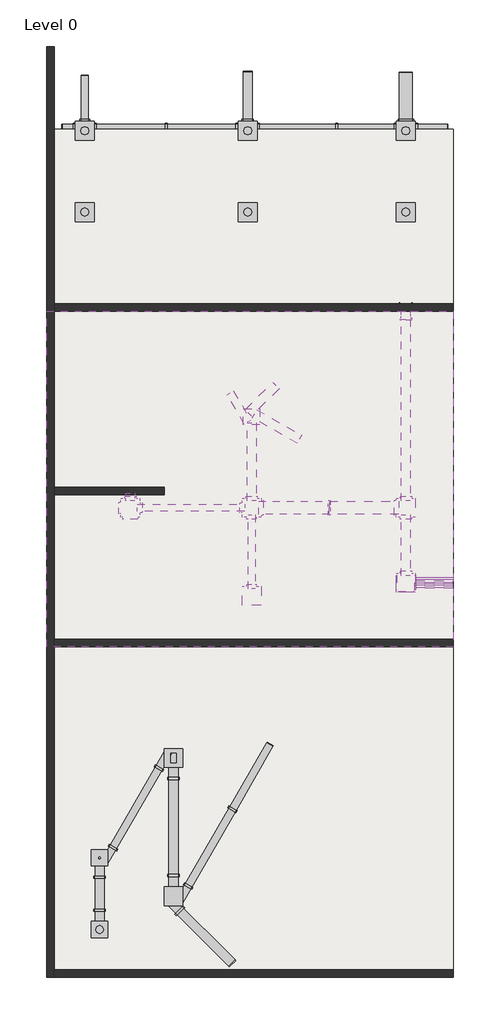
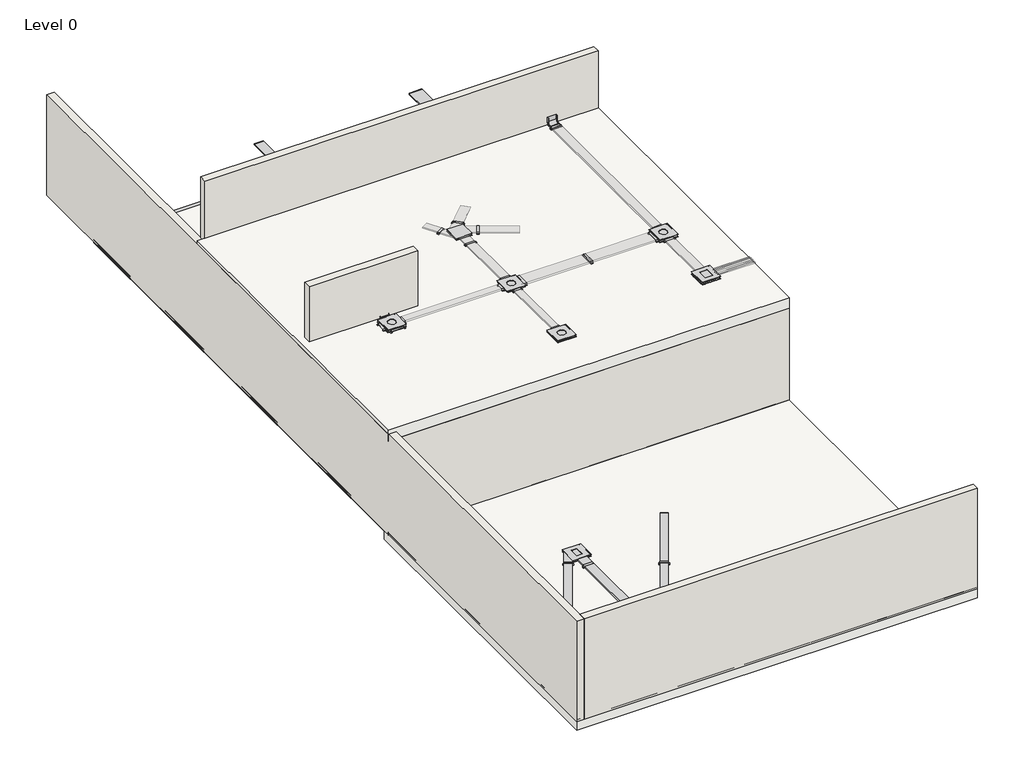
# One storey: 43 cable carrier segments, 40 cable carrier fittings, 5 slabs, 5 walls.
"""IFC4 building model written with IfcOpenShell, lengths in millimetres."""

from ifc_helpers import new_model, si_unit, point, frame, frame_2d, origin, origin_with_axes, place, context, project, spatial, polyline, circle_curve, trimmed, segment, composite_curve, outline, extrude, faceted_brep, transform, mapped, element, save
from components import cable_carrier_fitting_1449447f, cable_carrier_fitting_7ac4a7a7, cable_carrier_fitting_87aa20dd, cable_carrier_fitting_cbbdd0ad, cable_carrier_fitting_c73509c4, cable_carrier_fitting_62b491a6, cable_carrier_fitting_b13fa1fb, cable_carrier_fitting_6f266b18, cable_carrier_fitting_4ca78d10, cable_carrier_fitting_9fe9072b, cable_carrier_fitting_0547c750, cable_carrier_fitting_3ffd2079, cable_carrier_fitting_ff291c77, bracket_ukb_5e2ba21c, clamp_uks_f8b6c40f, clamp_uks_47fe2a39, clamp_uks_b9cb9329, clamp_uks_7d713c9f, end_bracket_uke_2c302845, end_bracket_uke_6d4a283f, end_bracket_uke_1009efe0, end_bracket_uke_49c26a37, end_bracket_uke_cbfa7e48, pipe_inlet_uds_f426f647, universal_junction_box_with_bottom_plate_size_2_cc3fe6d4, universal_junction_box_with_bottom_plate_size_2_f06dd73f, universal_junction_box_with_bottom_plate_size_3_b58b3dae, universal_junction_box_with_bottom_plate_size_3_48d80f4d, universal_junction_box_with_sheet_metal_casing_size_3_742ed20b, universal_junction_box_with_sheet_metal_casing_size_3_df0c8797

model = new_model("IFC4")

# Units and contexts
model_context = context("Model", 3, world=origin())
ifc_project = project(units=[si_unit("LENGTHUNIT", "METRE", prefix="MILLI")], contexts=[model_context])

# Site, building, storey
site = spatial("IfcSite", under=ifc_project)
building = spatial("IfcBuilding", under=site)
storey = spatial("IfcBuildingStorey", under=building, Name="Level 0", Elevation=0.0)

# Cable carrier fittings
placement = place(None, origin())
cable_carrier_fitting_shape = cable_carrier_fitting_1449447f(model_context)
element("IfcCableCarrierFitting", 1, ObjectType="Electrical-Installations_Hager_Vertical-Elbow-UKK : Vertical-Elbow-2-Compartments-UKK", at=placement, inside=storey, context=model_context, shape_type="MappedRepresentation", body=[
    mapped(cable_carrier_fitting_shape, transform((-6825.5844844, -4345.1669928, 2969.2), x_axis=(0.0, -1.0, 0.0), y_axis=(1.0000000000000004, 0.0, 0.0), z_axis=(0.0, 0.0, 1.0000000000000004))),
])
cable_carrier_fitting_2_shape = cable_carrier_fitting_7ac4a7a7(model_context)
element("IfcCableCarrierFitting", 2, ObjectType="Electrical-Installations_Hager_Vertical-Elbow-UKK : Vertical-Elbow-3-Compartments-UKK", at=placement, inside=storey, context=model_context, shape_type="MappedRepresentation", body=[
    mapped(cable_carrier_fitting_2_shape, transform((425.9001732, 439.801545, 2969.2), x_axis=(0.0, -1.0, 0.0), y_axis=(1.0, 0.0, 0.0), z_axis=(0.0, 0.0, 1.0))),
])
cable_carrier_fitting_3_shape = cable_carrier_fitting_87aa20dd(model_context)
element("IfcCableCarrierFitting", 3, ObjectType="Electrical-Installations_Hager_Vertical-Elbow-UKK : Vertical-Elbow-3-Compartments-UKK", at=placement, inside=storey, context=model_context, shape_type="MappedRepresentation", body=[
    mapped(cable_carrier_fitting_3_shape, transform((425.9001732, 1039.801545, 24.0), x_axis=(0.0, 1.0, 0.0), y_axis=(-1.0, 0.0, 0.0), z_axis=(0.0, 0.0, 1.0))),
])
cable_carrier_fitting_4_shape = cable_carrier_fitting_cbbdd0ad(model_context)
element("IfcCableCarrierFitting", 4, ObjectType="Electrical-Installations_Hager_Universal-Junction-Box-With-Retaining-Tabs-Size-2-Angled : Universal junction box with retaining tabs size 2", at=placement, inside=storey, context=model_context, shape_type="MappedRepresentation", body=[
    mapped(cable_carrier_fitting_4_shape, transform((-7633.6577636, -15627.7354934, 85.0), x_axis=(1.0, 0.0, 0.0), y_axis=(0.0, 1.0, 0.0), z_axis=(0.0, 0.0, 1.0))),
])
cable_carrier_fitting_5_shape = cable_carrier_fitting_c73509c4(model_context)
element("IfcCableCarrierFitting", 5, ObjectType="Electrical-Installations_Hager_Universal-Junction-Box-With-Retaining-Tabs-Size-3-Angled : Universal junction box with retaining tabs size 3", at=placement, inside=storey, context=model_context, shape_type="MappedRepresentation", body=[
    mapped(cable_carrier_fitting_5_shape, transform((-5689.5217227, -14751.4029445, 85.0), x_axis=(1.0, 0.0, 0.0), y_axis=(0.0, 1.0, 0.0), z_axis=(0.0, 0.0, 1.0))),
])
cable_carrier_fitting_6_shape = cable_carrier_fitting_62b491a6(model_context)
element("IfcCableCarrierFitting", 6, ObjectType="Electrical-Installations_Hager_Universal-Junction-Box-With-Retaining-Tabs-Size-2 : Universal junction box with retaining tabs size 2", at=placement, inside=storey, context=model_context, shape_type="MappedRepresentation", body=[
    mapped(cable_carrier_fitting_6_shape, transform((-6825.5844844, -4528.1669928, 2969.2), x_axis=(1.0, 0.0, 0.0), y_axis=(0.0, 1.0, 0.0), z_axis=(0.0, 0.0, 1.0))),
])
cable_carrier_fitting_7_shape = cable_carrier_fitting_b13fa1fb(model_context)
element("IfcCableCarrierFitting", 7, ObjectType="Electrical-Installations_Hager_Universal-Junction-Box-With-Retaining-Tabs-Size-3 : Universal junction box with retaining tabs size 3", at=placement, inside=storey, context=model_context, shape_type="MappedRepresentation", body=[
    mapped(cable_carrier_fitting_7_shape, transform((-3632.8221609, -4528.1669928, 2969.2), x_axis=(1.0, 0.0, 0.0), y_axis=(0.0, 1.0, 0.0), z_axis=(0.0, 0.0, 1.0))),
])
cable_carrier_fitting_8_shape = cable_carrier_fitting_6f266b18(model_context)
element("IfcCableCarrierFitting", 8, ObjectType="Electrical-Installations_Hager_Universal-Junction-Box-With-Retaining-Tabs-Size-3 : Universal junction box with retaining tabs size 3", at=placement, inside=storey, context=model_context, shape_type="MappedRepresentation", body=[
    mapped(cable_carrier_fitting_8_shape, transform((-8025.38033, 5391.6758526, 24.0), x_axis=(0.0, 1.0, 0.0), y_axis=(-1.0, 0.0, 0.0), z_axis=(0.0, 0.0, 1.0))),
])
cable_carrier_fitting_9_shape = cable_carrier_fitting_4ca78d10(model_context)
element("IfcCableCarrierFitting", 9, ObjectType="Electrical-Installations_Hager_Universal-Junction-Box-With-Retaining-Tabs-Size-3 : Universal junction box with retaining tabs size 3", at=placement, inside=storey, context=model_context, shape_type="MappedRepresentation", body=[
    mapped(cable_carrier_fitting_9_shape, transform((-8025.38033, 3255.0755111, 24.0), x_axis=(1.0, 0.0, 0.0), y_axis=(0.0, 1.0, 0.0), z_axis=(0.0, 0.0, 1.0))),
])
cable_carrier_fitting_10_shape = cable_carrier_fitting_9fe9072b(model_context)
element("IfcCableCarrierFitting", 10, ObjectType="Electrical-Installations_Hager_Universal-Junction-Box-With-Retaining-Tabs-Size-3 : Universal junction box with retaining tabs size 3", at=placement, inside=storey, context=model_context, shape_type="MappedRepresentation", body=[
    mapped(cable_carrier_fitting_10_shape, transform((-3736.4937866, 5391.6758526, 24.0), x_axis=(0.0, 1.0, 0.0), y_axis=(-1.0, 0.0, 0.0), z_axis=(0.0, 0.0, 1.0))),
])
cable_carrier_fitting_11_shape = cable_carrier_fitting_0547c750(model_context)
element("IfcCableCarrierFitting", 11, ObjectType="Electrical-Installations_Hager_Universal-Junction-Box-With-Retaining-Tabs-Size-3 : Universal junction box with retaining tabs size 3", at=placement, inside=storey, context=model_context, shape_type="MappedRepresentation", body=[
    mapped(cable_carrier_fitting_11_shape, transform((-3736.4937866, 3255.0755111, 24.0), x_axis=(0.0, 1.0, 0.0), y_axis=(-1.0, 0.0, 0.0), z_axis=(0.0, 0.0, 1.0))),
])
cable_carrier_fitting_12_shape = cable_carrier_fitting_3ffd2079(model_context)
element("IfcCableCarrierFitting", 12, ObjectType="Electrical-Installations_Hager_Universal-Junction-Box-With-Retaining-Tabs-Size-3 : Universal junction box with retaining tabs size 3", at=placement, inside=storey, context=model_context, shape_type="MappedRepresentation", body=[
    mapped(cable_carrier_fitting_12_shape, transform((425.9001732, 5391.6758526, 24.0), x_axis=(0.0, 1.0, 0.0), y_axis=(-1.0, 0.0, 0.0), z_axis=(0.0, 0.0, 1.0))),
])
cable_carrier_fitting_13_shape = cable_carrier_fitting_ff291c77(model_context)
element("IfcCableCarrierFitting", 13, ObjectType="Electrical-Installations_Hager_Universal-Junction-Box-With-Retaining-Tabs-Size-3 : Universal junction box with retaining tabs size 3", at=placement, inside=storey, context=model_context, shape_type="MappedRepresentation", body=[
    mapped(cable_carrier_fitting_13_shape, transform((425.9001732, 3255.0755111, 24.0), x_axis=(0.0, 1.0, 0.0), y_axis=(-1.0, 0.0, 0.0), z_axis=(0.0, 0.0, 1.0))),
])
bracket_ukb_shape = bracket_ukb_5e2ba21c(model_context)
element("IfcCableCarrierFitting", 14, ObjectType="Electrical-Installations_Hager_Bracket-UKB : Bracket-UKB", at=placement, inside=storey, context=model_context, shape_type="MappedRepresentation", body=[
    mapped(bracket_ukb_shape, transform((-8025.38033, 2317.662986, 10.0), x_axis=(1.0, 0.0, 0.0), y_axis=(0.0, 1.0, 0.0), z_axis=(0.0, 0.0, 1.0))),
])
clamp_uks_shape = clamp_uks_f8b6c40f(model_context)
element("IfcCableCarrierFitting", 15, ObjectType="Electrical-Installations_Hager_Clamp-UKS : Clamp-UKS", at=placement, inside=storey, context=model_context, shape_type="MappedRepresentation", body=[
    mapped(clamp_uks_shape, transform((-5851.4370583, 5391.6758526, 24.0), x_axis=(-1.0, 0.0, 0.0), y_axis=(0.0, -1.0, 0.0), z_axis=(0.0, 0.0, 1.0))),
])
element("IfcCableCarrierFitting", 16, ObjectType="Electrical-Installations_Hager_Clamp-UKS : Clamp-UKS", at=placement, inside=storey, context=model_context, shape_type="MappedRepresentation", body=[
    mapped(clamp_uks_shape, transform((-1361.520416, 5391.6758526, 24.0), x_axis=(-1.0, 0.0, 0.0), y_axis=(0.0, -1.0, 0.0), z_axis=(0.0, 0.0, 1.0))),
])
clamp_uks_2_shape = clamp_uks_47fe2a39(model_context)
element("IfcCableCarrierFitting", 17, ObjectType="Electrical-Installations_Hager_Clamp-UKS : Clamp-UKS", at=placement, inside=storey, context=model_context, shape_type="MappedRepresentation", body=[
    mapped(clamp_uks_2_shape, transform((-1361.520416, 3255.0755111, 24.0), x_axis=(-1.0, 0.0, 0.0), y_axis=(0.0, -1.0, 0.0), z_axis=(0.0, 0.0, 1.0))),
])
element("IfcCableCarrierFitting", 18, ObjectType="Electrical-Installations_Hager_Clamp-UKS : Clamp-UKS", at=placement, inside=storey, context=model_context, shape_type="MappedRepresentation", body=[
    mapped(clamp_uks_2_shape, transform((-5910.4370583, 3255.0755111, 24.0), x_axis=(-1.0, 0.0, 0.0), y_axis=(0.0, -1.0, 0.0), z_axis=(0.0, 0.0, 1.0))),
])
clamp_uks_3_shape = clamp_uks_b9cb9329(model_context)
element("IfcCableCarrierFitting", 19, ObjectType="Electrical-Installations_Hager_Clamp-UKS : Clamp-UKS", at=placement, inside=storey, context=model_context, shape_type="MappedRepresentation", body=[
    mapped(clamp_uks_3_shape, transform((-1562.1586471, -4528.1474829, 2969.2), x_axis=(-0.9999997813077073, -0.0006613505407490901, 0.0), y_axis=(0.0006613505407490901, -0.9999997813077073, 0.0), z_axis=(0.0, 0.0, 1.0))),
])
clamp_uks_4_shape = clamp_uks_7d713c9f(model_context)
element("IfcCableCarrierFitting", 20, ObjectType="Electrical-Installations_Hager_Clamp-UKS : Clamp-UKS", at=placement, inside=storey, context=model_context, shape_type="MappedRepresentation", body=[
    mapped(clamp_uks_4_shape, transform((-4123.5022728, -12438.8538416, 85.0), x_axis=(-0.5000000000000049, -0.8660254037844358, 0.0), y_axis=(0.8660254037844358, -0.5000000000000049, 0.0), z_axis=(0.0, 0.0, 1.0))),
])
end_bracket_uke_shape = end_bracket_uke_2c302845(model_context)
element("IfcCableCarrierFitting", 21, ObjectType="Electrical-Installations_Hager_End-Bracket-UKE : End-Bracket-UKE", at=placement, inside=storey, context=model_context, shape_type="MappedRepresentation", body=[
    mapped(end_bracket_uke_shape, transform((-8608.0895141, 5391.6758526, 24.0), x_axis=(-1.0, 0.0, 0.0), y_axis=(0.0, -1.0, 0.0), z_axis=(0.0, 0.0, 1.0))),
])
element("IfcCableCarrierFitting", 22, ObjectType="Electrical-Installations_Hager_End-Bracket-UKE : End-Bracket-UKE", at=placement, inside=storey, context=model_context, shape_type="MappedRepresentation", body=[
    mapped(end_bracket_uke_shape, transform((1512.5062134, 5391.6758526, 24.0), x_axis=(1.0, 0.0, 0.0), y_axis=(0.0, 1.0, 0.0), z_axis=(0.0, 0.0, 1.0))),
])
element("IfcCableCarrierFitting", 23, ObjectType="Electrical-Installations_Hager_End-Bracket-UKE : End-Bracket-UKE", at=placement, inside=storey, context=model_context, shape_type="MappedRepresentation", body=[
    mapped(end_bracket_uke_shape, transform((425.9001732, 6917.8189536, 24.0), x_axis=(0.0, 1.0, 0.0), y_axis=(-1.0, 0.0, 0.0), z_axis=(0.0, 0.0, 1.0))),
])
end_bracket_uke_2_shape = end_bracket_uke_6d4a283f(model_context)
element("IfcCableCarrierFitting", 24, ObjectType="Electrical-Installations_Hager_End-Bracket-UKE : End-Bracket-UKE", at=placement, inside=storey, context=model_context, shape_type="MappedRepresentation", body=[
    mapped(end_bracket_uke_2_shape, transform((-8608.0895141, 3255.0755111, 24.0), x_axis=(-1.0, 0.0, 0.0), y_axis=(0.0, -1.0, 0.0), z_axis=(0.0, 0.0, 1.0))),
])
element("IfcCableCarrierFitting", 25, ObjectType="Electrical-Installations_Hager_End-Bracket-UKE : End-Bracket-UKE", at=placement, inside=storey, context=model_context, shape_type="MappedRepresentation", body=[
    mapped(end_bracket_uke_2_shape, transform((-3736.4937866, 1606.0755111, 24.0), x_axis=(0.0, -1.0, 0.0), y_axis=(1.0, 0.0, 0.0), z_axis=(0.0, 0.0, 1.0))),
])
element("IfcCableCarrierFitting", 26, ObjectType="Electrical-Installations_Hager_End-Bracket-UKE : End-Bracket-UKE", at=placement, inside=storey, context=model_context, shape_type="MappedRepresentation", body=[
    mapped(end_bracket_uke_2_shape, transform((1512.5062134, 3255.0755111, 24.0), x_axis=(1.0, 0.0, 0.0), y_axis=(0.0, 1.0, 0.0), z_axis=(0.0, 0.0, 1.0))),
])
element("IfcCableCarrierFitting", 27, ObjectType="Electrical-Installations_Hager_End-Bracket-UKE : End-Bracket-UKE", at=placement, inside=storey, context=model_context, shape_type="MappedRepresentation", body=[
    mapped(end_bracket_uke_2_shape, transform((-3736.4937866, 6940.6758526, 24.0), x_axis=(0.0, 1.0, 0.0), y_axis=(-1.0, 0.0, 0.0), z_axis=(0.0, 0.0, 1.0))),
])
end_bracket_uke_3_shape = end_bracket_uke_1009efe0(model_context)
element("IfcCableCarrierFitting", 28, ObjectType="Electrical-Installations_Hager_End-Bracket-UKE : End-Bracket-UKE", at=placement, inside=storey, context=model_context, shape_type="MappedRepresentation", body=[
    mapped(end_bracket_uke_3_shape, transform((-8025.38033, 1726.0755111, 24.0), x_axis=(0.0, -1.0, 0.0), y_axis=(1.0, 0.0, 0.0), z_axis=(0.0, 0.0, 1.0))),
])
element("IfcCableCarrierFitting", 29, ObjectType="Electrical-Installations_Hager_End-Bracket-UKE : End-Bracket-UKE", at=placement, inside=storey, context=model_context, shape_type="MappedRepresentation", body=[
    mapped(end_bracket_uke_3_shape, transform((-8025.38033, 6840.6758526, 24.0), x_axis=(0.0, 1.0, 0.0), y_axis=(-1.0, 0.0, 0.0), z_axis=(0.0, 0.0, 1.0))),
])
end_bracket_uke_4_shape = end_bracket_uke_49c26a37(model_context)
element("IfcCableCarrierFitting", 30, ObjectType="Electrical-Installations_Hager_End-Bracket-UKE : End-Bracket-UKE", at=placement, inside=storey, context=model_context, shape_type="MappedRepresentation", body=[
    mapped(end_bracket_uke_4_shape, transform((-4148.0289397, -16514.1799987, 85.0), x_axis=(0.7071067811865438, -0.7071067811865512, 0.0), y_axis=(0.7071067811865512, 0.7071067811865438, 0.0), z_axis=(0.0, 0.0, 1.0))),
])
end_bracket_uke_5_shape = end_bracket_uke_cbfa7e48(model_context)
element("IfcCableCarrierFitting", 31, ObjectType="Electrical-Installations_Hager_End-Bracket-UKE : End-Bracket-UKE", at=placement, inside=storey, context=model_context, shape_type="MappedRepresentation", body=[
    mapped(end_bracket_uke_5_shape, transform((-3153.0022728, -10757.8985328, 85.0), x_axis=(0.5000000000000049, 0.8660254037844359, 0.0), y_axis=(-0.8660254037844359, 0.5000000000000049, 0.0), z_axis=(0.0, 0.0, 1.0))),
])
pipe_inlet_uds_shape = pipe_inlet_uds_f426f647(model_context)
element("IfcCableCarrierFitting", 32, ObjectType="Electrical-Installations_Hager_Pipe-Inlet-UDS : Pipe-Inlet-UDS", at=placement, inside=storey, context=model_context, shape_type="MappedRepresentation", body=[
    mapped(pipe_inlet_uds_shape, transform((658.9001732, -6496.8915456, 2957.247197), x_axis=(0.0, 1.0000000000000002, 0.0), y_axis=(-1.0000000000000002, 0.0, 0.0), z_axis=(0.0, 0.0, 1.0))),
])
element("IfcCableCarrierFitting", 33, ObjectType="Electrical-Installations_Hager_Pipe-Inlet-UDS : Pipe-Inlet-UDS", at=placement, inside=storey, context=model_context, shape_type="MappedRepresentation", body=[
    mapped(pipe_inlet_uds_shape, transform((425.9001732, -6729.8915456, 2957.247197), x_axis=(1.0, 0.0, 0.0), y_axis=(0.0, 1.0, 0.0), z_axis=(0.0, 0.0, 1.0))),
])
element("IfcCableCarrierFitting", 34, ObjectType="Electrical-Installations_Hager_Pipe-Inlet-UDS : Pipe-Inlet-UDS", at=placement, inside=storey, context=model_context, shape_type="MappedRepresentation", body=[
    mapped(pipe_inlet_uds_shape, transform((192.9001732, -6496.8915456, 2957.2), x_axis=(0.0, -1.0000000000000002, 0.0), y_axis=(1.0000000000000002, 0.0, 0.0), z_axis=(0.0, 0.0, 1.0))),
])
universal_junction_box_with_bottom_plate_size_2_shape = universal_junction_box_with_bottom_plate_size_2_cc3fe6d4(model_context)
element("IfcCableCarrierFitting", 35, ObjectType="Electrical-Installations_Hager_Universal-Junction-Box-With-Bottom-Plate-Size-2-Angled : Universal junction box with bottom plate size 2", at=placement, inside=storey, context=model_context, shape_type="MappedRepresentation", body=[
    mapped(universal_junction_box_with_bottom_plate_size_2_shape, transform((-3632.8221609, -2131.2102574, 2969.2), x_axis=(1.0, 0.0, 0.0), y_axis=(0.0, 1.0, 0.0), z_axis=(0.0, 0.0, 1.0))),
])
universal_junction_box_with_bottom_plate_size_2_2_shape = universal_junction_box_with_bottom_plate_size_2_f06dd73f(model_context)
element("IfcCableCarrierFitting", 36, ObjectType="Electrical-Installations_Hager_Universal-Junction-Box-With-Bottom-Plate-Size-2-Angled : Universal junction box with bottom plate size 2", at=placement, inside=storey, context=model_context, shape_type="MappedRepresentation", body=[
    mapped(universal_junction_box_with_bottom_plate_size_2_2_shape, transform((-7633.6577636, -13740.715542, 85.0), x_axis=(1.0, 0.0, 0.0), y_axis=(0.0, 1.0, 0.0), z_axis=(0.0, 0.0, 1.0))),
])
universal_junction_box_with_bottom_plate_size_3_shape = universal_junction_box_with_bottom_plate_size_3_b58b3dae(model_context)
element("IfcCableCarrierFitting", 37, ObjectType="Electrical-Installations_Hager_Universal-Junction-Box-With-Bottom-Plate-Size-3 : Universal junction box with bottom plate size 3", at=placement, inside=storey, context=model_context, shape_type="MappedRepresentation", body=[
    mapped(universal_junction_box_with_bottom_plate_size_3_shape, transform((-3632.8221609, -6848.0680021, 2969.2), x_axis=(1.0, 0.0, 0.0), y_axis=(0.0, 1.0, 0.0), z_axis=(0.0, 0.0, 1.0))),
])
universal_junction_box_with_bottom_plate_size_3_2_shape = universal_junction_box_with_bottom_plate_size_3_48d80f4d(model_context)
element("IfcCableCarrierFitting", 38, ObjectType="Electrical-Installations_Hager_Universal-Junction-Box-With-Bottom-Plate-Size-3-Angled : Universal junction box with bottom plate size 3", at=placement, inside=storey, context=model_context, shape_type="MappedRepresentation", body=[
    mapped(universal_junction_box_with_bottom_plate_size_3_2_shape, transform((-5689.5217227, -11112.5036639, 85.0), x_axis=(1.0, 0.0, 0.0), y_axis=(0.0, 1.0, 0.0), z_axis=(0.0, 0.0, 1.0))),
])
universal_junction_box_with_sheet_metal_casing_size_3_shape = universal_junction_box_with_sheet_metal_casing_size_3_742ed20b(model_context)
element("IfcCableCarrierFitting", 39, ObjectType="Electrical-Installations_Hager_Universal-Junction-Box-With-Sheet-Metal-Casing-Size-3 : Universal junction box with sheet metal casing size 3", at=placement, inside=storey, context=model_context, shape_type="MappedRepresentation", body=[
    mapped(universal_junction_box_with_sheet_metal_casing_size_3_shape, transform((425.9001732, -6496.8915456, 2969.2), x_axis=(1.0, 0.0, 0.0), y_axis=(0.0, 1.0, 0.0), z_axis=(0.0, 0.0, 1.0))),
])
universal_junction_box_with_sheet_metal_casing_size_3_2_shape = universal_junction_box_with_sheet_metal_casing_size_3_df0c8797(model_context)
element("IfcCableCarrierFitting", 40, ObjectType="Electrical-Installations_Hager_Universal-Junction-Box-With-Sheet-Metal-Casing-Size-3 : Universal junction box with sheet metal casing size 3", at=placement, inside=storey, context=model_context, shape_type="MappedRepresentation", body=[
    mapped(universal_junction_box_with_sheet_metal_casing_size_3_2_shape, transform((425.9001732, -4528.1669928, 2969.2), x_axis=(1.0, 0.0, 0.0), y_axis=(0.0, 1.0, 0.0), z_axis=(0.0, 0.0, 1.0))),
])

# Cable carrier segments
element("IfcCableCarrierSegment", 41, ObjectType="Electrical-Installations_Cable-Trays_Hager_Screed-Covered-Trunking-System-UK_Trunking-2-Compartments", at=placement, inside=storey, context=model_context, shape_type="SweptSolid", body=[
    extrude(outline(polyline([(608.9001732, 5221.6758526), (608.9001732, 5561.6758526), (1512.5062134, 5561.6758526), (1512.5062134, 5221.6758526), (608.9001732, 5221.6758526)])), frame((0.0, 0.0, 10.0), z_axis=(0.0, 0.0, 1.0), x_axis=(1.0, 0.0, 0.0)), (0.0, 0.0, 1.0), 28.0),
])
element("IfcCableCarrierSegment", 42, ObjectType="Electrical-Installations_Cable-Trays_Hager_Screed-Covered-Trunking-System-UK_Trunking-2-Compartments", at=placement, inside=storey, context=model_context, shape_type="SweptSolid", body=[
    extrude(outline(polyline([(-8608.0895141, 5221.6758526), (-8608.0895141, 5561.6758526), (-8208.38033, 5561.6758526), (-8208.38033, 5221.6758526), (-8608.0895141, 5221.6758526)])), frame((0.0, 0.0, 10.0), z_axis=(0.0, 0.0, 1.0), x_axis=(1.0, 0.0, 0.0)), (0.0, 0.0, 1.0), 28.0),
])
element("IfcCableCarrierSegment", 43, ObjectType="Electrical-Installations_Cable-Trays_Hager_Screed-Covered-Trunking-System-UK_Trunking-2-Compartments", at=placement, inside=storey, context=model_context, shape_type="SweptSolid", body=[
    extrude(outline(polyline([(608.9001732, 3135.0755111), (608.9001732, 3375.0755111), (1512.5062134, 3375.0755111), (1512.5062134, 3135.0755111), (608.9001732, 3135.0755111)])), frame((0.0, 0.0, 10.0), z_axis=(0.0, 0.0, 1.0), x_axis=(1.0, 0.0, 0.0)), (0.0, 0.0, 1.0), 28.0),
])
element("IfcCableCarrierSegment", 44, ObjectType="Electrical-Installations_Cable-Trays_Hager_Screed-Covered-Trunking-System-UK_Trunking-2-Compartments", at=placement, inside=storey, context=model_context, shape_type="SweptSolid", body=[
    extrude(outline(polyline([(-8608.0895141, 3135.0755111), (-8608.0895141, 3375.0755111), (-8208.38033, 3375.0755111), (-8208.38033, 3135.0755111), (-8608.0895141, 3135.0755111)])), frame((0.0, 0.0, 10.0), z_axis=(0.0, 0.0, 1.0), x_axis=(1.0, 0.0, 0.0)), (0.0, 0.0, 1.0), 28.0),
])
element("IfcCableCarrierSegment", 45, ObjectType="Electrical-Installations_Cable-Trays_Hager_Screed-Covered-Trunking-System-UK_Trunking-2-Compartments", at=placement, inside=storey, context=model_context, shape_type="SweptSolid", body=[
    extrude(outline(polyline([(-8120.38033, 5208.6758526), (-7930.38033, 5208.6758526), (-7930.38033, 3438.0755111), (-8120.38033, 3438.0755111), (-8120.38033, 5208.6758526)])), frame((0.0, 0.0, 10.0), z_axis=(0.0, 0.0, 1.0), x_axis=(1.0, 0.0, 0.0)), (0.0, 0.0, 1.0), 28.0),
])
element("IfcCableCarrierSegment", 46, ObjectType="Electrical-Installations_Cable-Trays_Hager_Screed-Covered-Trunking-System-UK_Trunking-2-Compartments", at=placement, inside=storey, context=model_context, shape_type="SweptSolid", body=[
    extrude(outline(polyline([(-3856.4937866, 3072.0755111), (-3616.4937866, 3072.0755111), (-3616.4937866, 1606.0755111), (-3856.4937866, 1606.0755111), (-3856.4937866, 3072.0755111)])), frame((0.0, 0.0, 10.0), z_axis=(0.0, 0.0, 1.0), x_axis=(1.0, 0.0, 0.0)), (0.0, 0.0, 1.0), 28.0),
])
element("IfcCableCarrierSegment", 47, ObjectType="Electrical-Installations_Cable-Trays_Hager_Screed-Covered-Trunking-System-UK_Trunking-2-Compartments", at=placement, inside=storey, context=model_context, shape_type="SweptSolid", body=[
    extrude(outline(polyline([(-3856.4937866, 5208.6758526), (-3616.4937866, 5208.6758526), (-3616.4937866, 3438.0755111), (-3856.4937866, 3438.0755111), (-3856.4937866, 5208.6758526)])), frame((0.0, 0.0, 10.0), z_axis=(0.0, 0.0, 1.0), x_axis=(1.0, 0.0, 0.0)), (0.0, 0.0, 1.0), 28.0),
])
element("IfcCableCarrierSegment", 48, ObjectType="Electrical-Installations_Cable-Trays_Hager_Screed-Covered-Trunking-System-UK_Trunking-2-Compartments", at=placement, inside=storey, context=model_context, shape_type="SweptSolid", body=[
    extrude(outline(polyline([(0.0, -340.0), (0.0, 0.0), (1343.143101, 0.0), (1343.143101, -340.0), (0.0, -340.0)])), frame((595.9001732, 6917.8189536, 10.0), z_axis=(0.0, -2.1898160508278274e-12, 1.0), x_axis=(0.0, -1.0, -2.1898160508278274e-12)), (0.0, 0.0, 1.0), 28.0),
])
element("IfcCableCarrierSegment", 49, ObjectType="Electrical-Installations_Cable-Trays_Hager_Screed-Covered-Trunking-System-UK_Trunking-2-Compartments", at=placement, inside=storey, context=model_context, shape_type="SweptSolid", body=[
    extrude(outline(polyline([(255.9001732, 5208.6758526), (595.9001732, 5208.6758526), (595.9001732, 3438.0755111), (255.9001732, 3438.0755111), (255.9001732, 5208.6758526)])), frame((0.0, 0.0, 10.0), z_axis=(0.0, 0.0, 1.0), x_axis=(1.0, 0.0, 0.0)), (0.0, 0.0, 1.0), 28.0),
])
element("IfcCableCarrierSegment", 50, ObjectType="Electrical-Installations_Cable-Trays_Hager_Screed-Covered-Trunking-System-UK_Trunking-2-Compartments", at=placement, inside=storey, context=model_context, shape_type="SweptSolid", body=[
    extrude(outline(polyline([(-7842.38033, 5221.6758526), (-7842.38033, 5561.6758526), (-5880.9370583, 5561.6758526), (-5880.9370583, 5221.6758526), (-7842.38033, 5221.6758526)])), frame((0.0, 0.0, 10.0), z_axis=(0.0, 0.0, 1.0), x_axis=(1.0, 0.0, 0.0)), (0.0, 0.0, 1.0), 28.0),
])
element("IfcCableCarrierSegment", 51, ObjectType="Electrical-Installations_Cable-Trays_Hager_Screed-Covered-Trunking-System-UK_Trunking-2-Compartments", at=placement, inside=storey, context=model_context, shape_type="SweptSolid", body=[
    extrude(outline(polyline([(-3553.4937866, 5221.6758526), (-3553.4937866, 5561.6758526), (-1391.020416, 5561.6758526), (-1391.020416, 5221.6758526), (-3553.4937866, 5221.6758526)])), frame((0.0, 0.0, 10.0), z_axis=(0.0, 0.0, 1.0), x_axis=(1.0, 0.0, 0.0)), (0.0, 0.0, 1.0), 28.0),
])
element("IfcCableCarrierSegment", 52, ObjectType="Electrical-Installations_Cable-Trays_Hager_Screed-Covered-Trunking-System-UK_Trunking-2-Compartments", at=placement, inside=storey, context=model_context, shape_type="SweptSolid", body=[
    extrude(outline(polyline([(-3553.4937866, 3135.0755111), (-3553.4937866, 3375.0755111), (-1391.020416, 3375.0755111), (-1391.020416, 3135.0755111), (-3553.4937866, 3135.0755111)])), frame((0.0, 0.0, 10.0), z_axis=(0.0, 0.0, 1.0), x_axis=(1.0, 0.0, 0.0)), (0.0, 0.0, 1.0), 28.0),
])
element("IfcCableCarrierSegment", 53, ObjectType="Electrical-Installations_Cable-Trays_Hager_Screed-Covered-Trunking-System-UK_Trunking-2-Compartments", at=placement, inside=storey, context=model_context, shape_type="SweptSolid", body=[
    extrude(outline(polyline([(-7842.38033, 3135.0755111), (-7842.38033, 3375.0755111), (-5939.9370583, 3375.0755111), (-5939.9370583, 3135.0755111), (-7842.38033, 3135.0755111)])), frame((0.0, 0.0, 10.0), z_axis=(0.0, 0.0, 1.0), x_axis=(1.0, 0.0, 0.0)), (0.0, 0.0, 1.0), 28.0),
])
element("IfcCableCarrierSegment", 54, ObjectType="Electrical-Installations_Cable-Trays_Hager_Screed-Covered-Trunking-System-UK_Trunking-2-Compartments", at=placement, inside=storey, context=model_context, shape_type="SweptSolid", body=[
    extrude(outline(polyline([(-8120.38033, 3072.0755111), (-7930.38033, 3072.0755111), (-7930.38033, 1726.0755111), (-8120.38033, 1726.0755111), (-8120.38033, 3072.0755111)])), frame((0.0, 0.0, 10.0), z_axis=(0.0, 0.0, 1.0), x_axis=(1.0, 0.0, 0.0)), (0.0, 0.0, 1.0), 28.0),
])
element("IfcCableCarrierSegment", 55, ObjectType="Electrical-Installations_Cable-Trays_Hager_Screed-Covered-Trunking-System-UK_Trunking-3-Compartments", at=placement, inside=storey, context=model_context, shape_type="SweptSolid", body=[
    extrude(outline(polyline([(255.9001732, 3072.0755111), (595.9001732, 3072.0755111), (595.9001732, 1039.801545), (255.9001732, 1039.801545), (255.9001732, 3072.0755111)])), frame((0.0, 0.0, 10.0), z_axis=(0.0, 0.0, 1.0), x_axis=(1.0, 0.0, 0.0)), (0.0, 0.0, 1.0), 28.0),
])
element("IfcCableCarrierSegment", 56, ObjectType="Electrical-Installations_Cable-Trays_Hager_Screed-Covered-Trunking-System-UK_Trunking-3-Compartments", at=placement, inside=storey, context=model_context, shape_type="SweptSolid", body=[
    extrude(outline(polyline([(-7930.38033, 5574.6758526), (-8120.38033, 5574.6758526), (-8120.38033, 6840.6758526), (-7930.38033, 6840.6758526), (-7930.38033, 5574.6758526)])), frame((0.0, 0.0, 10.0), z_axis=(0.0, 0.0, 1.0), x_axis=(1.0, 0.0, 0.0)), (0.0, 0.0, 1.0), 28.0),
])
element("IfcCableCarrierSegment", 57, ObjectType="Electrical-Installations_Cable-Trays_Hager_Screed-Covered-Trunking-System-UK_Trunking-3-Compartments", at=placement, inside=storey, context=model_context, shape_type="SweptSolid", body=[
    extrude(outline(polyline([(-3815.8221609, -4433.1669928), (-3815.8221609, -4623.1669928), (-6642.5844844, -4623.1669928), (-6642.5844844, -4433.1669928), (-3815.8221609, -4433.1669928)])), frame((0.0, 0.0, 2945.2), z_axis=(0.0, 0.0, 1.0), x_axis=(1.0, 0.0, 0.0)), (0.0, 0.0, 1.0), 48.0),
])
element("IfcCableCarrierSegment", 58, ObjectType="Electrical-Installations_Cable-Trays_Hager_Screed-Covered-Trunking-System-UK_Trunking-3-Compartments", at=placement, inside=storey, context=model_context, shape_type="SweptSolid", body=[
    extrude(outline(polyline([(305.9001732, -4711.1669928), (545.9001732, -4711.1669928), (545.9001732, -6313.8915456), (305.9001732, -6313.8915456), (305.9001732, -4711.1669928)])), frame((0.0, 0.0, 2955.2), z_axis=(0.0, 0.0, 1.0), x_axis=(1.0, 0.0, 0.0)), (0.0, 0.0, 1.0), 28.0),
])
element("IfcCableCarrierSegment", 59, ObjectType="Electrical-Installations_Cable-Trays_Hager_Screed-Covered-Trunking-System-UK_Trunking-3-Compartments", at=placement, inside=storey, context=model_context, shape_type="SweptSolid", body=[
    extrude(outline(polyline([(545.9001732, -4345.1669928), (305.9001732, -4345.1669928), (305.9001732, 439.801545), (545.9001732, 439.801545), (545.9001732, -4345.1669928)])), frame((0.0, 0.0, 2945.2), z_axis=(0.0, 0.0, 1.0), x_axis=(1.0, 0.0, 0.0)), (0.0, 0.0, 1.0), 48.0),
])
element("IfcCableCarrierSegment", 60, ObjectType="Electrical-Installations_Cable-Trays_Hager_Screed-Covered-Trunking-System-UK_Trunking-3-Compartments", at=placement, inside=storey, context=model_context, shape_type="SweptSolid", body=[
    extrude(outline(polyline([(-3727.8221609, -4711.1669928), (-3537.8221609, -4711.1669928), (-3537.8221609, -6663.0680021), (-3727.8221609, -6663.0680021), (-3727.8221609, -4711.1669928)])), frame((0.0, 0.0, 2955.2), z_axis=(0.0, 0.0, 1.0), x_axis=(1.0, 0.0, 0.0)), (0.0, 0.0, 1.0), 28.0),
])
element("IfcCableCarrierSegment", 61, ObjectType="Rigid Nonmetallic Conduit (RNC)", at=placement, inside=storey, context=model_context, shape_type="SweptSolid", body=[
    extrude(outline(composite_curve([segment(trimmed(circle_curve(frame_2d((-6630.0774292, 2984.3)), 10.0), [point((-6640.0774292, 2984.3))], [point((-6630.0774292, 2994.3))], False, "CARTESIAN"), True, "CONTINUOUS"), segment(trimmed(circle_curve(frame_2d((-6630.0774292, 2984.3)), 10.0), [point((-6630.0774292, 2994.3))], [point((-6620.0774292, 2984.3))], False, "CARTESIAN"), True, "CONTINUOUS"), segment(trimmed(circle_curve(frame_2d((-6630.0774292, 2984.3)), 10.0), [point((-6620.0774292, 2984.3))], [point((-6630.0774292, 2974.3))], False, "CARTESIAN"), True, "CONTINUOUS"), segment(trimmed(circle_curve(frame_2d((-6630.0774292, 2984.3)), 10.0), [point((-6630.0774292, 2974.3))], [point((-6640.0774292, 2984.3))], False, "CARTESIAN"), True, "CONTINUOUS")], self_intersect=False)), frame((683.9001732, 0.0, 0.0), z_axis=(1.0, 0.0, 0.0), x_axis=(0.0, 1.0, 0.0)), (0.0, 0.0, 1.0), 980.0),
])
element("IfcCableCarrierSegment", 62, ObjectType="Rigid Nonmetallic Conduit (RNC)", at=placement, inside=storey, context=model_context, shape_type="SweptSolid", body=[
    extrude(outline(composite_curve([segment(trimmed(circle_curve(frame_2d((-6576.3274292, 2984.3)), 16.0), [point((-6592.3274292, 2984.3))], [point((-6576.3274292, 3000.3))], False, "CARTESIAN"), True, "CONTINUOUS"), segment(trimmed(circle_curve(frame_2d((-6576.3274292, 2984.3)), 16.0), [point((-6576.3274292, 3000.3))], [point((-6560.3274292, 2984.3))], False, "CARTESIAN"), True, "CONTINUOUS"), segment(trimmed(circle_curve(frame_2d((-6576.3274292, 2984.3)), 16.0), [point((-6560.3274292, 2984.3))], [point((-6576.3274292, 2968.3))], False, "CARTESIAN"), True, "CONTINUOUS"), segment(trimmed(circle_curve(frame_2d((-6576.3274292, 2984.3)), 16.0), [point((-6576.3274292, 2968.3))], [point((-6592.3274292, 2984.3))], False, "CARTESIAN"), True, "CONTINUOUS")], self_intersect=False)), frame((683.9001732, 0.0, 0.0), z_axis=(1.0, 0.0, 0.0), x_axis=(0.0, 1.0, 0.0)), (0.0, 0.0, 1.0), 980.0),
])
element("IfcCableCarrierSegment", 63, ObjectType="Rigid Nonmetallic Conduit (RNC)", at=placement, inside=storey, context=model_context, shape_type="SweptSolid", body=[
    extrude(outline(composite_curve([segment(trimmed(circle_curve(frame_2d((-6523.8274292, 2984.3)), 20.0), [point((-6543.8274292, 2984.3))], [point((-6523.8274292, 3004.3))], False, "CARTESIAN"), True, "CONTINUOUS"), segment(trimmed(circle_curve(frame_2d((-6523.8274292, 2984.3)), 20.0), [point((-6523.8274292, 3004.3))], [point((-6503.8274292, 2984.3))], False, "CARTESIAN"), True, "CONTINUOUS"), segment(trimmed(circle_curve(frame_2d((-6523.8274292, 2984.3)), 20.0), [point((-6503.8274292, 2984.3))], [point((-6523.8274292, 2964.3))], False, "CARTESIAN"), True, "CONTINUOUS"), segment(trimmed(circle_curve(frame_2d((-6523.8274292, 2984.3)), 20.0), [point((-6523.8274292, 2964.3))], [point((-6543.8274292, 2984.3))], False, "CARTESIAN"), True, "CONTINUOUS")], self_intersect=False)), frame((683.9001732, 0.0, 0.0), z_axis=(1.0, 0.0, 0.0), x_axis=(0.0, 1.0, 0.0)), (0.0, 0.0, 1.0), 980.0),
])
element("IfcCableCarrierSegment", 64, ObjectType="Rigid Nonmetallic Conduit (RNC)", at=placement, inside=storey, context=model_context, shape_type="SweptSolid", body=[
    extrude(outline(composite_curve([segment(trimmed(circle_curve(frame_2d((-6470.0774292, 2984.3)), 25.0), [point((-6495.0774292, 2984.3))], [point((-6470.0774292, 3009.3))], False, "CARTESIAN"), True, "CONTINUOUS"), segment(trimmed(circle_curve(frame_2d((-6470.0774292, 2984.3)), 25.0), [point((-6470.0774292, 3009.3))], [point((-6445.0774292, 2984.3))], False, "CARTESIAN"), True, "CONTINUOUS"), segment(trimmed(circle_curve(frame_2d((-6470.0774292, 2984.3)), 25.0), [point((-6445.0774292, 2984.3))], [point((-6470.0774292, 2959.3))], False, "CARTESIAN"), True, "CONTINUOUS"), segment(trimmed(circle_curve(frame_2d((-6470.0774292, 2984.3)), 25.0), [point((-6470.0774292, 2959.3))], [point((-6495.0774292, 2984.3))], False, "CARTESIAN"), True, "CONTINUOUS")], self_intersect=False)), frame((683.9001732, 0.0, 0.0), z_axis=(1.0, 0.0, 0.0), x_axis=(0.0, 1.0, 0.0)), (0.0, 0.0, 1.0), 980.0),
])
element("IfcCableCarrierSegment", 65, ObjectType="Rigid Nonmetallic Conduit (RNC)", at=placement, inside=storey, context=model_context, shape_type="SweptSolid", body=[
    extrude(outline(composite_curve([segment(trimmed(circle_curve(frame_2d((-6417.5774292, 2984.3)), 10.0), [point((-6427.5774292, 2984.3))], [point((-6417.5774292, 2994.3))], False, "CARTESIAN"), True, "CONTINUOUS"), segment(trimmed(circle_curve(frame_2d((-6417.5774292, 2984.3)), 10.0), [point((-6417.5774292, 2994.3))], [point((-6407.5774292, 2984.3))], False, "CARTESIAN"), True, "CONTINUOUS"), segment(trimmed(circle_curve(frame_2d((-6417.5774292, 2984.3)), 10.0), [point((-6407.5774292, 2984.3))], [point((-6417.5774292, 2974.3))], False, "CARTESIAN"), True, "CONTINUOUS"), segment(trimmed(circle_curve(frame_2d((-6417.5774292, 2984.3)), 10.0), [point((-6417.5774292, 2974.3))], [point((-6427.5774292, 2984.3))], False, "CARTESIAN"), True, "CONTINUOUS")], self_intersect=False)), frame((683.9001732, 0.0, 0.0), z_axis=(1.0, 0.0, 0.0), x_axis=(0.0, 1.0, 0.0)), (0.0, 0.0, 1.0), 980.0),
])
element("IfcCableCarrierSegment", 66, ObjectType="Rigid Nonmetallic Conduit (RNC)", at=placement, inside=storey, context=model_context, shape_type="SweptSolid", body=[
    extrude(outline(composite_curve([segment(trimmed(circle_curve(frame_2d((-6363.8274292, 2984.3)), 10.0), [point((-6373.8274292, 2984.3))], [point((-6363.8274292, 2994.3))], False, "CARTESIAN"), True, "CONTINUOUS"), segment(trimmed(circle_curve(frame_2d((-6363.8274292, 2984.3)), 10.0), [point((-6363.8274292, 2994.3))], [point((-6353.8274292, 2984.3))], False, "CARTESIAN"), True, "CONTINUOUS"), segment(trimmed(circle_curve(frame_2d((-6363.8274292, 2984.3)), 10.0), [point((-6353.8274292, 2984.3))], [point((-6363.8274292, 2974.3))], False, "CARTESIAN"), True, "CONTINUOUS"), segment(trimmed(circle_curve(frame_2d((-6363.8274292, 2984.3)), 10.0), [point((-6363.8274292, 2974.3))], [point((-6373.8274292, 2984.3))], False, "CARTESIAN"), True, "CONTINUOUS")], self_intersect=False)), frame((683.9001732, 0.0, 0.0), z_axis=(1.0, 0.0, 0.0), x_axis=(0.0, 1.0, 0.0)), (0.0, 0.0, 1.0), 980.0),
])
element("IfcCableCarrierSegment", 67, ObjectType="Electrical-Installations_Cable-Trays_Hager_Screed-Covered-Trunking-System-UK_Trunking-3-Compartments", at=placement, inside=storey, context=model_context, shape_type="SweptSolid", body=[
    extrude(outline(polyline([(-3449.8221609, -4698.1669928), (-3449.8221609, -4358.1669928), (-1591.6586407, -4358.1669928), (-1591.6586407, -4698.1669928), (-3449.8221609, -4698.1669928)])), frame((0.0, 0.0, 2945.2), z_axis=(0.0, 0.0, 1.0), x_axis=(1.0, 0.0, 0.0)), (0.0, 0.0, 1.0), 48.0),
])
element("IfcCableCarrierSegment", 68, ObjectType="Electrical-Installations_Cable-Trays_Hager_Screed-Covered-Trunking-System-UK_Trunking-2-Compartments", at=placement, inside=storey, context=model_context, shape_type="SweptSolid", body=[
    extrude(outline(polyline([(-3616.4937866, 5574.6758526), (-3856.4937866, 5574.6758526), (-3856.4937866, 6940.6758526), (-3616.4937866, 6940.6758526), (-3616.4937866, 5574.6758526)])), frame((0.0, 0.0, 10.0), z_axis=(0.0, 0.0, 1.0), x_axis=(1.0, 0.0, 0.0)), (0.0, 0.0, 1.0), 28.0),
])
element("IfcCableCarrierSegment", 69, ObjectType="Electrical-Installations_Cable-Trays_Hager_Screed-Covered-Trunking-System-UK_Trunking-3-Compartments", at=placement, inside=storey, context=model_context, shape_type="SweptSolid", body=[
    extrude(outline(polyline([(-3512.8221609, -4345.1669928), (-3752.8221609, -4345.1669928), (-3752.8221609, -2289.2102574), (-3512.8221609, -2289.2102574), (-3512.8221609, -4345.1669928)])), frame((0.0, 0.0, 2955.2), z_axis=(0.0, 0.0, 1.0), x_axis=(1.0, 0.0, 0.0)), (0.0, 0.0, 1.0), 28.0),
])
element("IfcCableCarrierSegment", 70, ObjectType="Electrical-Installations_Cable-Trays_Hager_Screed-Covered-Trunking-System-UK_Trunking-3-Compartments", at=placement, inside=storey, context=model_context, shape_type="SweptSolid", body=[
    extrude(outline(polyline([(-3660.9183503, -2231.8006014), (-3825.4631771, -2326.8006014), (-4275.4631771, -1547.377738), (-4110.9183503, -1452.377738), (-3660.9183503, -2231.8006014)])), frame((0.0, 0.0, 2955.2), z_axis=(0.0, 0.0, 1.0), x_axis=(1.0, 0.0, 0.0)), (0.0, 0.0, 1.0), 28.0),
])
element("IfcCableCarrierSegment", 71, ObjectType="Electrical-Installations_Cable-Trays_Hager_Screed-Covered-Trunking-System-UK_Trunking-3-Compartments", at=placement, inside=storey, context=model_context, shape_type="SweptSolid", body=[
    extrude(outline(polyline([(-3632.8221609, -2114.6316136), (-3802.5277884, -1944.9259862), (-3081.2788716, -1223.6770693), (-2911.5732441, -1393.3826968), (-3632.8221609, -2114.6316136)])), frame((0.0, 0.0, 2955.2), z_axis=(0.0, 0.0, 1.0), x_axis=(1.0, 0.0, 0.0)), (0.0, 0.0, 1.0), 28.0),
])
element("IfcCableCarrierSegment", 72, ObjectType="Electrical-Installations_Cable-Trays_Hager_Screed-Covered-Trunking-System-UK_Trunking-2-Compartments", at=placement, inside=storey, context=model_context, shape_type="SweptSolid", body=[
    extrude(outline(polyline([(-5569.5217227, -14558.4029445), (-5809.5217227, -14558.4029445), (-5809.5217227, -11305.5036639), (-5569.5217227, -11305.5036639), (-5569.5217227, -14558.4029445)])), frame((0.0, 0.0, 61.0), z_axis=(0.0, 0.0, 1.0), x_axis=(1.0, 0.0, 0.0)), (0.0, 0.0, 1.0), 48.0),
])
element("IfcCableCarrierSegment", 73, ObjectType="Electrical-Installations_Cable-Trays_Hager_Screed-Covered-Trunking-System-UK_Trunking-2-Compartments", at=placement, inside=storey, context=model_context, shape_type="SweptSolid", body=[
    extrude(outline(polyline([(-5859.2273502, -14972.6872157), (-5689.5217227, -14802.9815882), (-4063.1761259, -16429.3271849), (-4232.8817534, -16599.0328124), (-5859.2273502, -14972.6872157)])), frame((0.0, 0.0, 61.0), z_axis=(0.0, 0.0, 1.0), x_axis=(1.0, 0.0, 0.0)), (0.0, 0.0, 1.0), 48.0),
])
element("IfcCableCarrierSegment", 74, ObjectType="Electrical-Installations_Cable-Trays_Hager_Screed-Covered-Trunking-System-UK_Trunking-2-Compartments", at=placement, inside=storey, context=model_context, shape_type="SweptSolid", body=[
    extrude(outline(polyline([(-5917.1627388, -10916.9133198), (-5752.6179121, -11011.9133198), (-7441.0167474, -13936.305886), (-7605.5615741, -13841.305886), (-5917.1627388, -10916.9133198)])), frame((0.0, 0.0, 61.0), z_axis=(0.0, 0.0, 1.0), x_axis=(1.0, 0.0, 0.0)), (0.0, 0.0, 1.0), 48.0),
])
element("IfcCableCarrierSegment", 75, ObjectType="Electrical-Installations_Cable-Trays_Hager_Screed-Covered-Trunking-System-UK_Trunking-2-Compartments", at=placement, inside=storey, context=model_context, shape_type="SweptSolid", body=[
    extrude(outline(polyline([(-5461.8807065, -14946.9932885), (-5626.4255332, -14851.9932885), (-4220.5246862, -12416.901591), (-4055.9798595, -12511.901591), (-5461.8807065, -14946.9932885)])), frame((0.0, 0.0, 61.0), z_axis=(0.0, 0.0, 1.0), x_axis=(1.0, 0.0, 0.0)), (0.0, 0.0, 1.0), 48.0),
])
element("IfcCableCarrierSegment", 76, ObjectType="Electrical-Installations_Cable-Trays_Hager_Screed-Covered-Trunking-System-UK_Trunking-3-Compartments", at=placement, inside=storey, context=model_context, shape_type="SweptSolid", body=[
    extrude(outline(polyline([(-3613.0217876, -2153.0787411), (-3493.0217876, -1945.2326442), (-2315.2272385, -2625.2326442), (-2435.2272385, -2833.0787411), (-3613.0217876, -2153.0787411)])), frame((0.0, 0.0, 2955.2), z_axis=(0.0, 0.0, 1.0), x_axis=(1.0, 0.0, 0.0)), (0.0, 0.0, 1.0), 28.0),
])
element("IfcCableCarrierSegment", 77, ObjectType="Electrical-Installations_Cable-Trays_Hager_Screed-Covered-Trunking-System-UK_Trunking-2-Compartments", at=placement, inside=storey, context=model_context, shape_type="SweptSolid", body=[
    extrude(outline(polyline([(-4055.9798595, -12511.901591), (-4220.5246862, -12416.901591), (-3235.2746862, -10710.3985328), (-3070.7298595, -10805.3985328), (-4055.9798595, -12511.901591)])), frame((0.0, 0.0, 61.0), z_axis=(0.0, 0.0, 1.0), x_axis=(1.0, 0.0, 0.0)), (0.0, 0.0, 1.0), 48.0),
])
element("IfcCableCarrierSegment", 78, ObjectType="Electrical-Installations_Cable-Trays_Hager_Screed-Covered-Trunking-System-UK_Trunking-2-Compartments", at=placement, inside=storey, context=model_context, shape_type="SweptSolid", body=[
    extrude(outline(polyline([(-1391.020416, 3135.0755111), (-1391.020416, 3375.0755111), (242.9001732, 3375.0755111), (242.9001732, 3135.0755111), (-1391.020416, 3135.0755111)])), frame((0.0, 0.0, 10.0), z_axis=(0.0, 0.0, 1.0), x_axis=(1.0, 0.0, 0.0)), (0.0, 0.0, 1.0), 28.0),
])
element("IfcCableCarrierSegment", 79, ObjectType="Electrical-Installations_Cable-Trays_Hager_Screed-Covered-Trunking-System-UK_Trunking-2-Compartments", at=placement, inside=storey, context=model_context, shape_type="SweptSolid", body=[
    extrude(outline(polyline([(-1391.020416, 5221.6758526), (-1391.020416, 5561.6758526), (242.9001732, 5561.6758526), (242.9001732, 5221.6758526), (-1391.020416, 5221.6758526)])), frame((0.0, 0.0, 10.0), z_axis=(0.0, 0.0, 1.0), x_axis=(1.0, 0.0, 0.0)), (0.0, 0.0, 1.0), 28.0),
])
element("IfcCableCarrierSegment", 80, ObjectType="Electrical-Installations_Cable-Trays_Hager_Screed-Covered-Trunking-System-UK_Trunking-2-Compartments", at=placement, inside=storey, context=model_context, shape_type="SweptSolid", body=[
    extrude(outline(polyline([(-5939.9370583, 3135.0755111), (-5939.9370583, 3375.0755111), (-3919.4937866, 3375.0755111), (-3919.4937866, 3135.0755111), (-5939.9370583, 3135.0755111)])), frame((0.0, 0.0, 10.0), z_axis=(0.0, 0.0, 1.0), x_axis=(1.0, 0.0, 0.0)), (0.0, 0.0, 1.0), 28.0),
])
element("IfcCableCarrierSegment", 81, ObjectType="Electrical-Installations_Cable-Trays_Hager_Screed-Covered-Trunking-System-UK_Trunking-2-Compartments", at=placement, inside=storey, context=model_context, shape_type="SweptSolid", body=[
    extrude(outline(polyline([(-5880.9370583, 5221.6758526), (-5880.9370583, 5561.6758526), (-3919.4937866, 5561.6758526), (-3919.4937866, 5221.6758526), (-5880.9370583, 5221.6758526)])), frame((0.0, 0.0, 10.0), z_axis=(0.0, 0.0, 1.0), x_axis=(1.0, 0.0, 0.0)), (0.0, 0.0, 1.0), 28.0),
])
element("IfcCableCarrierSegment", 82, ObjectType="Electrical-Installations_Cable-Trays_Hager_Screed-Covered-Trunking-System-UK_Trunking-3-Compartments", at=placement, inside=storey, context=model_context, shape_type="SweptSolid", body=[
    extrude(outline(polyline([(242.9001732, -4358.1669928), (242.9001732, -4698.1669928), (-1591.6586407, -4698.1669928), (-1591.6586407, -4358.1669928), (242.9001732, -4358.1669928)])), frame((0.0, 0.0, 2945.2), z_axis=(0.0, 0.0, 1.0), x_axis=(1.0, 0.0, 0.0)), (0.0, 0.0, 1.0), 48.0),
])
element("IfcCableCarrierSegment", 83, ObjectType="Channel Cable Tray", at=placement, inside=storey, context=model_context, shape_type="SweptSolid", body=[
    extrude(outline(polyline([(-7513.6577636, -15469.7354934), (-7753.6577636, -15469.7354934), (-7753.6577636, -13898.715542), (-7513.6577636, -13898.715542), (-7513.6577636, -15469.7354934)])), frame((0.0, 0.0, 61.0), z_axis=(0.0, 0.0, 1.0), x_axis=(1.0, 0.0, 0.0)), (0.0, 0.0, 1.0), 48.0),
])

# Slabs
element("IfcSlab", 84, ObjectType="Generic 300mm", at=placement, inside=storey, context=model_context, shape_type="SweptSolid", body=[
    extrude(outline(polyline([(1669.7886535, 639.801545), (1669.7886535, -8188.8550128), (-9030.2113465, -8188.8550128), (-9030.2113465, 639.801545), (1669.7886535, 639.801545)])), frame((0.0, 0.0, 2644.0), z_axis=(0.0, 0.0, 1.0), x_axis=(1.0, 0.0, 0.0)), (0.0, 0.0, 1.0), 300.0),
])
element("IfcSlab", 85, ObjectType="Generic 300mm", at=placement, inside=storey, context=model_context, shape_type="SweptSolid", body=[
    extrude(outline(polyline([(1669.7886535, -16888.8550128), (-9030.2113465, -16888.8550128), (-9030.2113465, -7988.8550128), (1669.7886535, -7988.8550128), (1669.7886535, -16888.8550128)])), frame((0.0, 0.0, -245.0), z_axis=(0.0, 0.0, 1.0), x_axis=(1.0, 0.0, 0.0)), (0.0, 0.0, 1.0), 300.0),
])
element("IfcSlab", 86, ObjectType="Generic 300mm 2", at=placement, inside=storey, context=model_context, shape_type="SweptSolid", body=[
    extrude(outline(polyline([(-9030.2113465, 5432.1718489), (-8628.0895141, 5432.1718489), (-8628.0895141, 5221.6758526), (-8274.38033, 5221.6758526), (-8274.38033, 5142.6758526), (-8120.38033, 5142.6758526), (-8120.38033, 3504.0755111), (-8274.38033, 3504.0755111), (-8274.38033, 3375.0755111), (-8628.0895141, 3375.0755111), (-8628.0895141, 3135.0755111), (-8274.38033, 3135.0755111), (-8274.38033, 3006.0755111), (-8120.38033, 3006.0755111), (-8120.38033, 1706.0755111), (-7930.38033, 1706.0755111), (-7930.38033, 3006.0755111), (-7776.38033, 3006.0755111), (-7776.38033, 3135.0755111), (-3985.4937866, 3135.0755111), (-3985.4937866, 3006.0755111), (-3856.4937866, 3006.0755111), (-3856.4937866, 1586.0755111), (-3616.4937866, 1586.0755111), (-3616.4937866, 1606.0755111), (-3616.4937866, 3006.0755111), (-3487.4937866, 3006.0755111), (-3487.4937866, 3135.0755111), (176.9001732, 3135.0755111), (176.9001732, 3006.0755111), (255.9001732, 3006.0755111), (255.9001732, 1039.801545), (255.9001732, 839.801545), (595.9001732, 839.801545), (595.9001732, 1039.801545), (595.9001732, 3006.0755111), (674.9001732, 3006.0755111), (674.9001732, 3135.0755111), (1512.5062134, 3135.0755111), (1532.5062134, 3135.0755111), (1532.5062134, 3375.0755111), (1512.5062134, 3375.0755111), (674.9001732, 3375.0755111), (674.9001732, 3504.0755111), (595.9001732, 3504.0755111), (595.9001732, 5142.6758526), (674.9001732, 5142.6758526), (674.9001732, 5221.6758526), (1512.5062134, 5221.6758526), (1532.5062134, 5221.6758526), (1532.5062134, 5432.1718489), (1669.7886535, 5432.1718489), (1669.7886535, -7988.8550128), (-9030.2113465, -7988.8550128), (-9030.2113465, 5432.1718489)])), frame((0.0, 0.0, 10.0), z_axis=(0.0, 0.0, 1.0), x_axis=(1.0, 0.0, 0.0)), (0.0, 0.0, 1.0), 28.0),
    extrude(outline(polyline([(-7930.38033, 5142.6758526), (-7776.38033, 5142.6758526), (-7776.38033, 5221.6758526), (-3985.4937866, 5221.6758526), (-3985.4937866, 5142.6758526), (-3856.4937866, 5142.6758526), (-3856.4937866, 3504.0755111), (-3985.4937866, 3504.0755111), (-3985.4937866, 3375.0755111), (-7776.38033, 3375.0755111), (-7776.38033, 3504.0755111), (-7930.38033, 3504.0755111), (-7930.38033, 5142.6758526)])), frame((0.0, 0.0, 10.0), z_axis=(0.0, 0.0, 1.0), x_axis=(1.0, 0.0, 0.0)), (0.0, 0.0, 1.0), 28.0),
    extrude(outline(polyline([(-1391.020416, 5221.6758526), (176.9001732, 5221.6758526), (176.9001732, 5142.6758526), (255.9001732, 5142.6758526), (255.9001732, 3504.0755111), (176.9001732, 3504.0755111), (176.9001732, 3375.0755111), (-1391.020416, 3375.0755111), (-3487.4937866, 3375.0755111), (-3487.4937866, 3504.0755111), (-3616.4937866, 3504.0755111), (-3616.4937866, 5142.6758526), (-3486.020416, 5142.6758526), (-3486.020416, 5221.6758526), (-1391.020416, 5221.6758526)])), frame((0.0, 0.0, 10.0), z_axis=(0.0, 0.0, 1.0), x_axis=(1.0, 0.0, 0.0)), (0.0, 0.0, 1.0), 28.0),
])
element("IfcSlab", 87, ObjectType="Generic 300mm 3", at=placement, inside=storey, context=model_context, shape_type="SweptSolid", body=[
    extrude(outline(polyline([(1669.7886535, 5432.1718489), (1669.7886535, -8188.8550128), (-9030.2113465, -8188.8550128), (-9030.2113465, 5432.1718489), (-8274.38033, 5432.1718489), (-8274.38033, 5142.6758526), (-7776.38033, 5142.6758526), (-7776.38033, 5432.1718489), (-3985.4937866, 5432.1718489), (-3985.4937866, 5142.6758526), (-3487.4937866, 5142.6758526), (-3487.4937866, 5432.1718489), (176.9001732, 5432.1718489), (176.9001732, 5142.6758526), (674.9001732, 5142.6758526), (674.9001732, 5432.1718489), (1532.5062134, 5432.1718489), (1669.7886535, 5432.1718489)]), holes=[polyline([(674.9001732, 3006.0755111), (674.9001732, 3504.0755111), (176.9001732, 3504.0755111), (176.9001732, 3006.0755111), (674.9001732, 3006.0755111)]), polyline([(-3487.4937866, 3006.0755111), (-3487.4937866, 3504.0755111), (-3985.4937866, 3504.0755111), (-3985.4937866, 3006.0755111), (-3487.4937866, 3006.0755111)]), polyline([(-7776.38033, 3006.0755111), (-7776.38033, 3504.0755111), (-8274.38033, 3504.0755111), (-8274.38033, 3006.0755111), (-7776.38033, 3006.0755111)])]), frame((0.0, 0.0, 38.0), z_axis=(0.0, 0.0, 1.0), x_axis=(1.0, 0.0, 0.0)), (0.0, 0.0, 1.0), 30.0),
])
element("IfcSlab", 88, ObjectType="Generic 300mm 3", at=placement, inside=storey, context=model_context, shape_type="SweptSolid", body=[
    extrude(outline(polyline([(-9030.2113465, 5432.1718489), (1669.7886535, 5432.1718489), (1669.7886535, -8188.8550128), (-9030.2113465, -8188.8550128), (-9030.2113465, 5432.1718489)])), frame((0.0, 0.0, -20.0), z_axis=(0.0, 0.0, 1.0), x_axis=(1.0, 0.0, 0.0)), (0.0, 0.0, 1.0), 30.0),
])

# Walls
element("IfcWall", 89, ObjectType="Generic - 200mm", at=placement, inside=storey, context=model_context, shape_type="SweptSolid", body=[
    extrude(outline(polyline([(1669.7886535, 639.801545), (-8830.2113465, 639.801545), (-8830.2113465, 839.801545), (1669.7886535, 839.801545), (1669.7886535, 639.801545)])), frame((0.0, 0.0, 55.0), z_axis=(0.0, 0.0, 1.0), x_axis=(1.0, 0.0, 0.0)), (0.0, 0.0, 1.0), 4500.0),
])
element("IfcWall", 90, ObjectType="Generic - 200mm", at=placement, inside=storey, context=model_context, shape_type="SweptSolid", body=[
    extrude(outline(polyline([(-8830.2113465, -7988.8550128), (1669.7886535, -7988.8550128), (1669.7886535, -8188.8550128), (-8830.2113465, -8188.8550128), (-8830.2113465, -7988.8550128)])), frame((0.0, 0.0, 54.0819437), z_axis=(0.0, 0.0, 1.0), x_axis=(1.0, 0.0, 0.0)), (0.0, 0.0, 1.0), 2589.9180563),
])
element("IfcWall", 91, ObjectType="Generic - 200mm", at=placement, inside=storey, context=model_context, shape_type="Brep", body=[
    faceted_brep([(-8830.2113465, -16888.8550128, 0.0), (-8830.2113465, -16688.8550128, 0.0), (-8830.2113465, -4182.6091772, 0.0), (-8830.2113465, -3982.6091772, 0.0), (-8830.2113465, 7611.1449872, 0.0), (-8830.2113465, 7611.1449872, 2836.8), (-8830.2113465, -16688.8550128, 2836.8), (-8830.2113465, -16888.8550128, 2836.8), (-9030.2113465, -16888.8550128, 0.0), (-9030.2113465, -16888.8550128, 2836.8), (-9030.2113465, 7611.1449872, 2836.8), (-9030.2113465, 7611.1449872, 0.0)], [[[0, 1, 2, 3, 4, 5, 6, 7]], [[8, 9, 10, 11]], [[4, 3, 2, 1, 0, 8, 11]], [[5, 4, 11, 10]], [[7, 6, 5, 10, 9]], [[0, 7, 9, 8]]]),
])
element("IfcWall", 92, ObjectType="Generic - 200mm", at=placement, inside=storey, context=model_context, shape_type="SweptSolid", body=[
    extrude(outline(polyline([(-8830.2113465, -3982.6091772), (-5930.2113465, -3982.6091772), (-5930.2113465, -4182.6091772), (-8830.2113465, -4182.6091772), (-8830.2113465, -3982.6091772)])), origin_with_axes(), (0.0, 0.0, 1.0), 4500.0),
])
element("IfcWall", 93, ObjectType="Generic - 200mm", at=placement, inside=storey, context=model_context, shape_type="SweptSolid", body=[
    extrude(outline(polyline([(1669.7886535, -16888.8550128), (-8830.2113465, -16888.8550128), (-8830.2113465, -16688.8550128), (1669.7886535, -16688.8550128), (1669.7886535, -16888.8550128)])), origin_with_axes(), (0.0, 0.0, 1.0), 2836.8),
])

save(model, "model.ifc")
